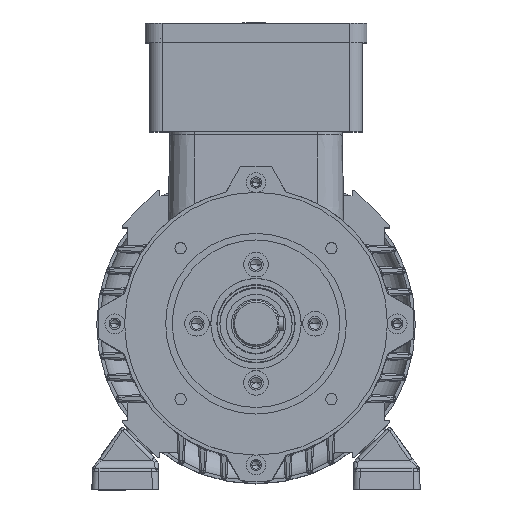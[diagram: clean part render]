
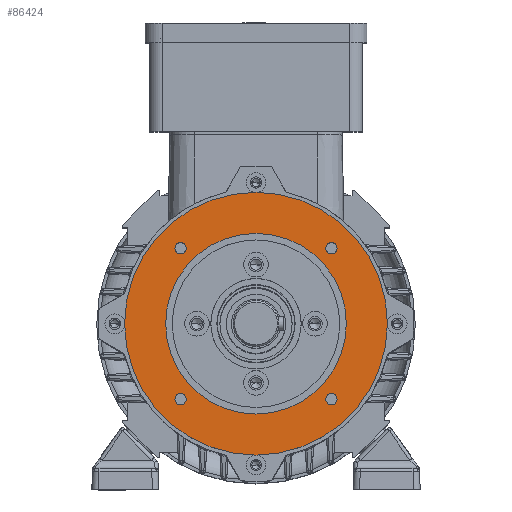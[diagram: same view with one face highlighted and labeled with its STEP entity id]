
A CAD part, top view. The second image highlights one B-rep face of the part: STEP entity #86424.
In plain terms, the highlighted planar face has unit normal (0, 0, 1).
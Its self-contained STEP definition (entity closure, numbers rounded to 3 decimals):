
#879 = DIRECTION ( 'NONE',  ( 0., 0., 1. ) ) ;
#1719 = CARTESIAN_POINT ( 'NONE',  ( 45.962, 45.962, 165. ) ) ;
#2237 = DIRECTION ( 'NONE',  ( 0., 0., 1. ) ) ;
#2345 = EDGE_CURVE ( 'NONE', #53573, #52533, #61335, .T. ) ;
#5074 = CIRCLE ( 'NONE', #30463, 55. ) ;
#5312 = ORIENTED_EDGE ( 'NONE', *, *, #2345, .F. ) ;
#6416 = DIRECTION ( 'NONE',  ( 1., 0., 0. ) ) ;
#7268 = CARTESIAN_POINT ( 'NONE',  ( -49.362, 45.962, 165. ) ) ;
#8160 = CARTESIAN_POINT ( 'NONE',  ( -45.962, -45.962, 165. ) ) ;
#8263 = AXIS2_PLACEMENT_3D ( 'NONE', #1719, #879, #80350 ) ;
#8886 = AXIS2_PLACEMENT_3D ( 'NONE', #100002, #100434, #90379 ) ;
#8887 = CARTESIAN_POINT ( 'NONE',  ( 45.962, -45.962, 165. ) ) ;
#9825 = AXIS2_PLACEMENT_3D ( 'NONE', #8160, #96784, #6416 ) ;
#11847 = EDGE_CURVE ( 'NONE', #73822, #116906, #5074, .T. ) ;
#14675 = CIRCLE ( 'NONE', #18667, 3.4 ) ;
#14992 = EDGE_CURVE ( 'NONE', #16602, #70550, #56498, .T. ) ;
#16602 = VERTEX_POINT ( 'NONE', #7268 ) ;
#17941 = CIRCLE ( 'NONE', #89002, 3.4 ) ;
#18667 = AXIS2_PLACEMENT_3D ( 'NONE', #35071, #46052, #75443 ) ;
#20583 = VERTEX_POINT ( 'NONE', #105952 ) ;
#24782 = EDGE_LOOP ( 'NONE', ( #54151, #35250 ) ) ;
#25131 = EDGE_CURVE ( 'NONE', #113317, #106525, #100031, .T. ) ;
#25435 = EDGE_CURVE ( 'NONE', #116906, #73822, #57514, .T. ) ;
#28177 = EDGE_CURVE ( 'NONE', #70550, #16602, #17941, .T. ) ;
#28344 = ORIENTED_EDGE ( 'NONE', *, *, #25435, .F. ) ;
#28803 = AXIS2_PLACEMENT_3D ( 'NONE', #84113, #83223, #94145 ) ;
#30463 = AXIS2_PLACEMENT_3D ( 'NONE', #83442, #2237, #72469 ) ;
#31246 = CARTESIAN_POINT ( 'NONE',  ( 55., 0., 165. ) ) ;
#33011 = VERTEX_POINT ( 'NONE', #91187 ) ;
#35071 = CARTESIAN_POINT ( 'NONE',  ( -45.962, -45.962, 165. ) ) ;
#35250 = ORIENTED_EDGE ( 'NONE', *, *, #14992, .F. ) ;
#37234 = CARTESIAN_POINT ( 'NONE',  ( 0., 0., 165. ) ) ;
#42093 = CARTESIAN_POINT ( 'NONE',  ( 80., 0., 165. ) ) ;
#43713 = CARTESIAN_POINT ( 'NONE',  ( 49.362, 45.962, 165. ) ) ;
#44510 = EDGE_LOOP ( 'NONE', ( #127599, #127899 ) ) ;
#46052 = DIRECTION ( 'NONE',  ( 0., 0., 1. ) ) ;
#46335 = DIRECTION ( 'NONE',  ( 1., 0., 0. ) ) ;
#47594 = DIRECTION ( 'NONE',  ( -1., 0., 0. ) ) ;
#47853 = AXIS2_PLACEMENT_3D ( 'NONE', #109671, #68858, #79020 ) ;
#50002 = EDGE_CURVE ( 'NONE', #97582, #84777, #103618, .T. ) ;
#51697 = ORIENTED_EDGE ( 'NONE', *, *, #124577, .F. ) ;
#52200 = FACE_BOUND ( 'NONE', #44510, .T. ) ;
#52533 = VERTEX_POINT ( 'NONE', #65244 ) ;
#53431 = CIRCLE ( 'NONE', #28803, 3.4 ) ;
#53573 = VERTEX_POINT ( 'NONE', #107025 ) ;
#54151 = ORIENTED_EDGE ( 'NONE', *, *, #28177, .F. ) ;
#54534 = ORIENTED_EDGE ( 'NONE', *, *, #95741, .T. ) ;
#55266 = CIRCLE ( 'NONE', #47853, 80. ) ;
#56290 = EDGE_LOOP ( 'NONE', ( #54534, #114624 ) ) ;
#56498 = CIRCLE ( 'NONE', #8886, 3.4 ) ;
#57514 = CIRCLE ( 'NONE', #77683, 55. ) ;
#57727 = CARTESIAN_POINT ( 'NONE',  ( -80., 0., 165. ) ) ;
#57743 = DIRECTION ( 'NONE',  ( 0., 0., 1. ) ) ;
#58567 = DIRECTION ( 'NONE',  ( 0., 0., -1. ) ) ;
#59737 = EDGE_LOOP ( 'NONE', ( #51697, #68340 ) ) ;
#60912 = EDGE_LOOP ( 'NONE', ( #75575, #5312 ) ) ;
#61335 = CIRCLE ( 'NONE', #66977, 3.4 ) ;
#61395 = CARTESIAN_POINT ( 'NONE',  ( 42.562, 45.962, 165. ) ) ;
#62386 = CARTESIAN_POINT ( 'NONE',  ( -42.562, 45.962, 165. ) ) ;
#64700 = EDGE_CURVE ( 'NONE', #52533, #53573, #53431, .T. ) ;
#65244 = CARTESIAN_POINT ( 'NONE',  ( 49.362, -45.962, 165. ) ) ;
#65909 = CIRCLE ( 'NONE', #9825, 3.4 ) ;
#66883 = PLANE ( 'NONE',  #76915 ) ;
#66977 = AXIS2_PLACEMENT_3D ( 'NONE', #8887, #89170, #69405 ) ;
#67880 = FACE_BOUND ( 'NONE', #24782, .T. ) ;
#68340 = ORIENTED_EDGE ( 'NONE', *, *, #50002, .F. ) ;
#68858 = DIRECTION ( 'NONE',  ( 0., 0., 1. ) ) ;
#69405 = DIRECTION ( 'NONE',  ( 1., 0., 0. ) ) ;
#70550 = VERTEX_POINT ( 'NONE', #62386 ) ;
#72469 = DIRECTION ( 'NONE',  ( 1., 0., 0. ) ) ;
#73822 = VERTEX_POINT ( 'NONE', #93655 ) ;
#75443 = DIRECTION ( 'NONE',  ( 1., 0., 0. ) ) ;
#75575 = ORIENTED_EDGE ( 'NONE', *, *, #64700, .F. ) ;
#76915 = AXIS2_PLACEMENT_3D ( 'NONE', #107655, #58567, #47594 ) ;
#77683 = AXIS2_PLACEMENT_3D ( 'NONE', #118221, #57743, #46335 ) ;
#79020 = DIRECTION ( 'NONE',  ( 1., 0., 0. ) ) ;
#80110 = CARTESIAN_POINT ( 'NONE',  ( -45.962, 45.962, 165. ) ) ;
#80350 = DIRECTION ( 'NONE',  ( 1., 0., 0. ) ) ;
#82375 = EDGE_CURVE ( 'NONE', #33011, #20583, #65909, .T. ) ;
#83223 = DIRECTION ( 'NONE',  ( 0., 0., 1. ) ) ;
#83442 = CARTESIAN_POINT ( 'NONE',  ( 0., 0., 165. ) ) ;
#84113 = CARTESIAN_POINT ( 'NONE',  ( 45.962, -45.962, 165. ) ) ;
#84777 = VERTEX_POINT ( 'NONE', #43713 ) ;
#86424 = ADVANCED_FACE ( 'NONE', ( #67880, #52200, #92944, #103911, #94596, #89824 ), #66883, .F. ) ;
#89002 = AXIS2_PLACEMENT_3D ( 'NONE', #80110, #89311, #100254 ) ;
#89170 = DIRECTION ( 'NONE',  ( 0., 0., 1. ) ) ;
#89311 = DIRECTION ( 'NONE',  ( 0., 0., 1. ) ) ;
#89824 = FACE_OUTER_BOUND ( 'NONE', #56290, .T. ) ;
#90379 = DIRECTION ( 'NONE',  ( 1., 0., 0. ) ) ;
#91187 = CARTESIAN_POINT ( 'NONE',  ( -49.362, -45.962, 165. ) ) ;
#92265 = EDGE_CURVE ( 'NONE', #20583, #33011, #14675, .T. ) ;
#92944 = FACE_BOUND ( 'NONE', #60912, .T. ) ;
#93655 = CARTESIAN_POINT ( 'NONE',  ( -55., 0., 165. ) ) ;
#94145 = DIRECTION ( 'NONE',  ( 1., 0., 0. ) ) ;
#94596 = FACE_BOUND ( 'NONE', #104038, .T. ) ;
#95501 = DIRECTION ( 'NONE',  ( 1., 0., 0. ) ) ;
#95741 = EDGE_CURVE ( 'NONE', #106525, #113317, #55266, .T. ) ;
#96379 = CARTESIAN_POINT ( 'NONE',  ( 45.962, 45.962, 165. ) ) ;
#96784 = DIRECTION ( 'NONE',  ( 0., 0., 1. ) ) ;
#97582 = VERTEX_POINT ( 'NONE', #61395 ) ;
#100002 = CARTESIAN_POINT ( 'NONE',  ( -45.962, 45.962, 165. ) ) ;
#100031 = CIRCLE ( 'NONE', #109560, 80. ) ;
#100254 = DIRECTION ( 'NONE',  ( 1., 0., 0. ) ) ;
#100434 = DIRECTION ( 'NONE',  ( 0., 0., 1. ) ) ;
#101707 = ORIENTED_EDGE ( 'NONE', *, *, #11847, .F. ) ;
#103618 = CIRCLE ( 'NONE', #8263, 3.4 ) ;
#103911 = FACE_BOUND ( 'NONE', #59737, .T. ) ;
#104038 = EDGE_LOOP ( 'NONE', ( #28344, #101707 ) ) ;
#105952 = CARTESIAN_POINT ( 'NONE',  ( -42.562, -45.962, 165. ) ) ;
#106525 = VERTEX_POINT ( 'NONE', #42093 ) ;
#107025 = CARTESIAN_POINT ( 'NONE',  ( 42.562, -45.962, 165. ) ) ;
#107345 = DIRECTION ( 'NONE',  ( 0., 0., 1. ) ) ;
#107655 = CARTESIAN_POINT ( 'NONE',  ( 0., 55., 165. ) ) ;
#109560 = AXIS2_PLACEMENT_3D ( 'NONE', #37234, #107345, #127091 ) ;
#109671 = CARTESIAN_POINT ( 'NONE',  ( 0., 0., 165. ) ) ;
#113317 = VERTEX_POINT ( 'NONE', #57727 ) ;
#114338 = AXIS2_PLACEMENT_3D ( 'NONE', #96379, #127052, #95501 ) ;
#114624 = ORIENTED_EDGE ( 'NONE', *, *, #25131, .T. ) ;
#116906 = VERTEX_POINT ( 'NONE', #31246 ) ;
#118221 = CARTESIAN_POINT ( 'NONE',  ( 0., 0., 165. ) ) ;
#124577 = EDGE_CURVE ( 'NONE', #84777, #97582, #125621, .T. ) ;
#125621 = CIRCLE ( 'NONE', #114338, 3.4 ) ;
#127052 = DIRECTION ( 'NONE',  ( 0., 0., 1. ) ) ;
#127091 = DIRECTION ( 'NONE',  ( 1., 0., 0. ) ) ;
#127599 = ORIENTED_EDGE ( 'NONE', *, *, #92265, .F. ) ;
#127899 = ORIENTED_EDGE ( 'NONE', *, *, #82375, .F. ) ;
